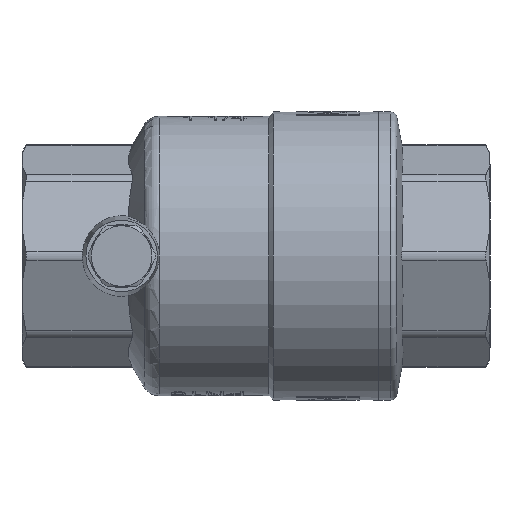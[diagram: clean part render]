
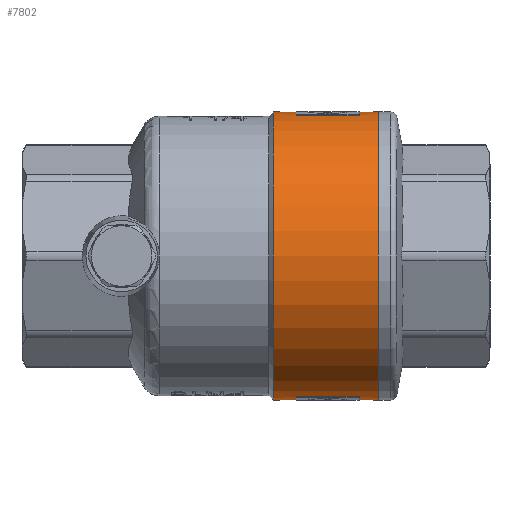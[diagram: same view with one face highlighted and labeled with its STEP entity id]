
A CAD part, front view. The second image highlights one B-rep face of the part: STEP entity #7802.
In plain terms, the highlighted cylindrical face has radius 33.25 mm (diameter 66.5 mm), a full revolution.
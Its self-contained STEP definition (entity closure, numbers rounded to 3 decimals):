
#419=FACE_BOUND('',#1532,.T.);
#420=FACE_BOUND('',#1533,.T.);
#584=CIRCLE('',#8209,33.25);
#585=CIRCLE('',#8210,33.25);
#588=CIRCLE('',#8217,33.25);
#589=CIRCLE('',#8218,33.25);
#668=CIRCLE('',#8450,33.25);
#672=CIRCLE('',#8459,33.25);
#680=CIRCLE('',#8482,33.25);
#681=CIRCLE('',#8483,33.25);
#1069=FACE_OUTER_BOUND('',#1531,.T.);
#1531=EDGE_LOOP('',(#6417,#6418,#6419,#6420,#6421,#6422,#6423,#6424,#6425,
#6426,#6427));
#1532=EDGE_LOOP('',(#6428,#6429,#6430,#6431));
#1533=EDGE_LOOP('',(#6432,#6433,#6434,#6435));
#1891=B_SPLINE_CURVE_WITH_KNOTS('',3,(#16554,#16555,#16556,#16557,#16558,
#16559,#16560,#16561,#16562,#16563),.UNSPECIFIED.,.F.,.F.,(4,2,2,2,4),(0.,
0.333,0.666,0.999,1.332),
 .UNSPECIFIED.);
#1892=B_SPLINE_CURVE_WITH_KNOTS('',3,(#16565,#16566,#16567,#16568,#16569,
#16570,#16571,#16572,#16573,#16574),.UNSPECIFIED.,.F.,.F.,(4,2,2,2,4),(3.995,
4.327,4.66,4.993,5.326),
 .UNSPECIFIED.);
#1893=B_SPLINE_CURVE_WITH_KNOTS('',3,(#16575,#16576,#16577,#16578,#16579,
#16580,#16581,#16582,#16583,#16584,#16585,#16586,#16587,#16588,#16589,#16590,
#16591,#16592),.UNSPECIFIED.,.F.,.F.,(4,2,2,2,2,2,2,2,4),(1.332,
1.664,1.997,2.33,2.663,2.996,
3.33,3.662,3.995),.UNSPECIFIED.);
#2286=LINE('',#20916,#2757);
#2298=LINE('',#20950,#2769);
#2313=LINE('',#21149,#2784);
#2314=LINE('',#21150,#2785);
#2315=LINE('',#21153,#2786);
#2316=LINE('',#21157,#2787);
#2757=VECTOR('',#9917,10.);
#2769=VECTOR('',#9955,10.);
#2784=VECTOR('',#10012,33.25);
#2785=VECTOR('',#10013,33.25);
#2786=VECTOR('',#10014,10.);
#2787=VECTOR('',#10017,10.);
#3242=VERTEX_POINT('',#15869);
#3243=VERTEX_POINT('',#15870);
#3249=VERTEX_POINT('',#15915);
#3250=VERTEX_POINT('',#15917);
#3357=VERTEX_POINT('',#16552);
#3358=VERTEX_POINT('',#16553);
#3359=VERTEX_POINT('',#16564);
#3503=VERTEX_POINT('',#20913);
#3504=VERTEX_POINT('',#20915);
#3506=VERTEX_POINT('',#20921);
#3513=VERTEX_POINT('',#20945);
#3538=VERTEX_POINT('',#21151);
#3539=VERTEX_POINT('',#21152);
#3540=VERTEX_POINT('',#21154);
#3541=VERTEX_POINT('',#21156);
#4125=EDGE_CURVE('',#3242,#3243,#584,.T.);
#4126=EDGE_CURVE('',#3243,#3242,#585,.T.);
#4133=EDGE_CURVE('',#3249,#3250,#588,.T.);
#4134=EDGE_CURVE('',#3250,#3249,#589,.T.);
#4247=EDGE_CURVE('',#3357,#3358,#1891,.T.);
#4248=EDGE_CURVE('',#3359,#3357,#1892,.T.);
#4249=EDGE_CURVE('',#3358,#3359,#1893,.T.);
#4521=EDGE_CURVE('',#3504,#3503,#2286,.T.);
#4525=EDGE_CURVE('',#3503,#3506,#668,.T.);
#4536=EDGE_CURVE('',#3513,#3504,#672,.T.);
#4539=EDGE_CURVE('',#3506,#3513,#2298,.T.);
#4571=EDGE_CURVE('',#3249,#3358,#2313,.T.);
#4572=EDGE_CURVE('',#3359,#3243,#2314,.T.);
#4573=EDGE_CURVE('',#3538,#3539,#2315,.T.);
#4574=EDGE_CURVE('',#3539,#3540,#680,.T.);
#4575=EDGE_CURVE('',#3540,#3541,#2316,.T.);
#4576=EDGE_CURVE('',#3541,#3538,#681,.T.);
#6417=ORIENTED_EDGE('',*,*,#4134,.F.);
#6418=ORIENTED_EDGE('',*,*,#4133,.F.);
#6419=ORIENTED_EDGE('',*,*,#4571,.T.);
#6420=ORIENTED_EDGE('',*,*,#4249,.T.);
#6421=ORIENTED_EDGE('',*,*,#4572,.T.);
#6422=ORIENTED_EDGE('',*,*,#4126,.T.);
#6423=ORIENTED_EDGE('',*,*,#4125,.T.);
#6424=ORIENTED_EDGE('',*,*,#4572,.F.);
#6425=ORIENTED_EDGE('',*,*,#4248,.T.);
#6426=ORIENTED_EDGE('',*,*,#4247,.T.);
#6427=ORIENTED_EDGE('',*,*,#4571,.F.);
#6428=ORIENTED_EDGE('',*,*,#4573,.T.);
#6429=ORIENTED_EDGE('',*,*,#4574,.T.);
#6430=ORIENTED_EDGE('',*,*,#4575,.T.);
#6431=ORIENTED_EDGE('',*,*,#4576,.T.);
#6432=ORIENTED_EDGE('',*,*,#4539,.T.);
#6433=ORIENTED_EDGE('',*,*,#4536,.T.);
#6434=ORIENTED_EDGE('',*,*,#4521,.T.);
#6435=ORIENTED_EDGE('',*,*,#4525,.T.);
#7512=CYLINDRICAL_SURFACE('',#8481,33.25);
#7802=ADVANCED_FACE('',(#1069,#419,#420),#7512,.T.);
#8209=AXIS2_PLACEMENT_3D('',#15871,#9299,#9300);
#8210=AXIS2_PLACEMENT_3D('',#15872,#9301,#9302);
#8217=AXIS2_PLACEMENT_3D('',#15918,#9316,#9317);
#8218=AXIS2_PLACEMENT_3D('',#15919,#9318,#9319);
#8450=AXIS2_PLACEMENT_3D('',#20923,#9924,#9925);
#8459=AXIS2_PLACEMENT_3D('',#20946,#9949,#9950);
#8481=AXIS2_PLACEMENT_3D('',#21148,#10010,#10011);
#8482=AXIS2_PLACEMENT_3D('',#21155,#10015,#10016);
#8483=AXIS2_PLACEMENT_3D('',#21158,#10018,#10019);
#9299=DIRECTION('center_axis',(-1.,0.,0.));
#9300=DIRECTION('ref_axis',(0.,0.,1.));
#9301=DIRECTION('center_axis',(-1.,0.,0.));
#9302=DIRECTION('ref_axis',(0.,0.,1.));
#9316=DIRECTION('center_axis',(-1.,0.,0.));
#9317=DIRECTION('ref_axis',(0.,0.,1.));
#9318=DIRECTION('center_axis',(-1.,0.,0.));
#9319=DIRECTION('ref_axis',(0.,0.,1.));
#9917=DIRECTION('',(1.,0.,0.));
#9924=DIRECTION('center_axis',(1.,0.,0.));
#9925=DIRECTION('ref_axis',(0.,-1.,0.));
#9949=DIRECTION('center_axis',(-1.,0.,0.));
#9950=DIRECTION('ref_axis',(0.,-1.,0.));
#9955=DIRECTION('',(-1.,0.,0.));
#10010=DIRECTION('center_axis',(-1.,0.,0.));
#10011=DIRECTION('ref_axis',(0.,-1.,0.));
#10012=DIRECTION('',(1.,0.,0.));
#10013=DIRECTION('',(1.,0.,0.));
#10014=DIRECTION('',(-1.,0.,0.));
#10015=DIRECTION('center_axis',(-1.,0.,0.));
#10016=DIRECTION('ref_axis',(0.,-1.,0.));
#10017=DIRECTION('',(1.,0.,0.));
#10018=DIRECTION('center_axis',(1.,0.,0.));
#10019=DIRECTION('ref_axis',(0.,-1.,0.));
#15869=CARTESIAN_POINT('',(28.25,-33.25,0.));
#15870=CARTESIAN_POINT('',(28.25,33.25,0.));
#15871=CARTESIAN_POINT('Origin',(28.25,0.,
0.));
#15872=CARTESIAN_POINT('Origin',(28.25,0.,
0.));
#15915=CARTESIAN_POINT('',(4.,33.25,0.));
#15917=CARTESIAN_POINT('',(4.,-33.25,0.));
#15918=CARTESIAN_POINT('Origin',(4.,0.,
0.));
#15919=CARTESIAN_POINT('Origin',(4.,0.,
0.));
#16552=CARTESIAN_POINT('',(18.,32.057,8.828));
#16553=CARTESIAN_POINT('',(9.245,33.25,0.));
#16554=CARTESIAN_POINT('Ctrl Pts',(18.,32.057,8.828));
#16555=CARTESIAN_POINT('Ctrl Pts',(16.889,32.057,8.828));
#16556=CARTESIAN_POINT('Ctrl Pts',(15.709,32.122,8.601));
#16557=CARTESIAN_POINT('Ctrl Pts',(13.549,32.351,7.692));
#16558=CARTESIAN_POINT('Ctrl Pts',(12.567,32.513,7.009));
#16559=CARTESIAN_POINT('Ctrl Pts',(11.023,32.811,5.444));
#16560=CARTESIAN_POINT('Ctrl Pts',(10.354,32.968,4.456));
#16561=CARTESIAN_POINT('Ctrl Pts',(9.465,33.189,2.288));
#16562=CARTESIAN_POINT('Ctrl Pts',(9.245,33.25,1.108));
#16563=CARTESIAN_POINT('Ctrl Pts',(9.245,33.25,0.));
#16564=CARTESIAN_POINT('',(26.755,33.25,0.));
#16565=CARTESIAN_POINT('Ctrl Pts',(26.755,33.25,0.));
#16566=CARTESIAN_POINT('Ctrl Pts',(26.755,33.25,1.108));
#16567=CARTESIAN_POINT('Ctrl Pts',(26.535,33.189,2.288));
#16568=CARTESIAN_POINT('Ctrl Pts',(25.646,32.968,4.456));
#16569=CARTESIAN_POINT('Ctrl Pts',(24.977,32.811,5.444));
#16570=CARTESIAN_POINT('Ctrl Pts',(23.433,32.513,7.009));
#16571=CARTESIAN_POINT('Ctrl Pts',(22.451,32.351,7.692));
#16572=CARTESIAN_POINT('Ctrl Pts',(20.291,32.122,8.601));
#16573=CARTESIAN_POINT('Ctrl Pts',(19.111,32.057,8.828));
#16574=CARTESIAN_POINT('Ctrl Pts',(18.,32.057,8.828));
#16575=CARTESIAN_POINT('Ctrl Pts',(9.245,33.25,0.));
#16576=CARTESIAN_POINT('Ctrl Pts',(9.245,33.25,-1.108));
#16577=CARTESIAN_POINT('Ctrl Pts',(9.465,33.189,-2.288));
#16578=CARTESIAN_POINT('Ctrl Pts',(10.354,32.968,-4.456));
#16579=CARTESIAN_POINT('Ctrl Pts',(11.023,32.811,-5.444));
#16580=CARTESIAN_POINT('Ctrl Pts',(12.567,32.513,-7.009));
#16581=CARTESIAN_POINT('Ctrl Pts',(13.549,32.351,-7.692));
#16582=CARTESIAN_POINT('Ctrl Pts',(15.709,32.122,-8.601));
#16583=CARTESIAN_POINT('Ctrl Pts',(16.889,32.057,-8.828));
#16584=CARTESIAN_POINT('Ctrl Pts',(19.111,32.057,-8.828));
#16585=CARTESIAN_POINT('Ctrl Pts',(20.291,32.122,-8.601));
#16586=CARTESIAN_POINT('Ctrl Pts',(22.451,32.351,-7.692));
#16587=CARTESIAN_POINT('Ctrl Pts',(23.433,32.513,-7.009));
#16588=CARTESIAN_POINT('Ctrl Pts',(24.977,32.811,-5.444));
#16589=CARTESIAN_POINT('Ctrl Pts',(25.646,32.968,-4.456));
#16590=CARTESIAN_POINT('Ctrl Pts',(26.535,33.189,-2.288));
#16591=CARTESIAN_POINT('Ctrl Pts',(26.755,33.25,-1.108));
#16592=CARTESIAN_POINT('Ctrl Pts',(26.755,33.25,0.));
#20913=CARTESIAN_POINT('',(23.805,7.596,32.371));
#20915=CARTESIAN_POINT('',(9.3,7.596,32.371));
#20916=CARTESIAN_POINT('',(16.125,7.596,32.371));
#20921=CARTESIAN_POINT('',(23.805,-6.908,32.524));
#20923=CARTESIAN_POINT('Origin',(23.805,0.,
0.));
#20945=CARTESIAN_POINT('',(9.3,-6.908,32.524));
#20946=CARTESIAN_POINT('Origin',(9.3,0.,0.));
#20950=CARTESIAN_POINT('',(16.125,-6.908,32.524));
#21148=CARTESIAN_POINT('Origin',(16.125,0.,
0.));
#21149=CARTESIAN_POINT('',(16.125,33.25,0.));
#21150=CARTESIAN_POINT('',(16.125,33.25,0.));
#21151=CARTESIAN_POINT('',(23.809,7.59,-32.372));
#21152=CARTESIAN_POINT('',(9.305,7.59,-32.372));
#21153=CARTESIAN_POINT('',(16.125,7.59,-32.372));
#21154=CARTESIAN_POINT('',(9.305,-6.914,-32.523));
#21155=CARTESIAN_POINT('Origin',(9.305,0.,0.));
#21156=CARTESIAN_POINT('',(23.809,-6.914,-32.523));
#21157=CARTESIAN_POINT('',(16.125,-6.914,-32.523));
#21158=CARTESIAN_POINT('Origin',(23.809,0.,
0.));
